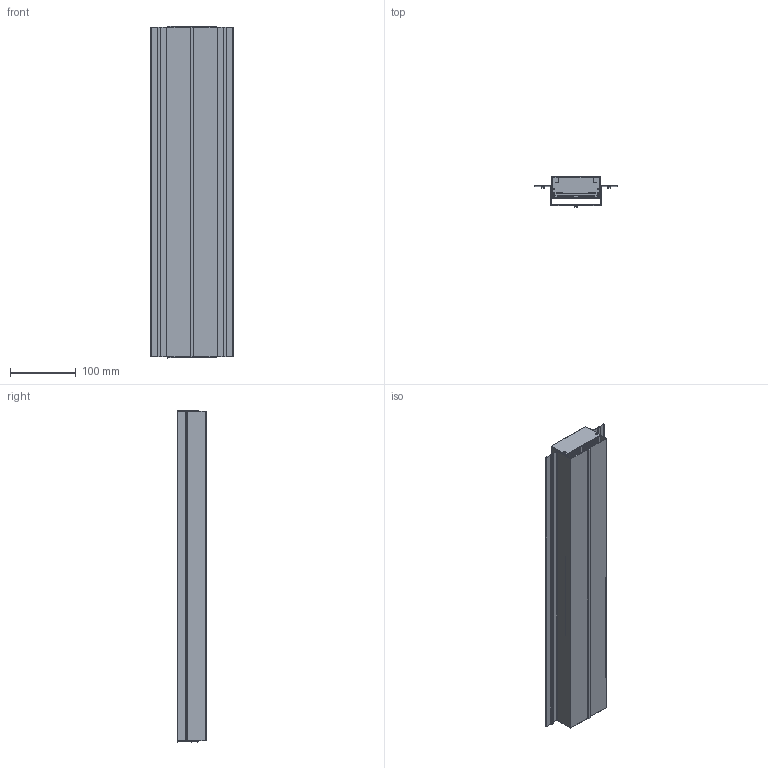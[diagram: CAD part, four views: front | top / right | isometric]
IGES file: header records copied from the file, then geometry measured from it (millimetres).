
Start section: SolidWorks IGES file using analytic representation for surfaces
Global section: file name: C:\Users\Mattybullough\Desktop\IGS\NS7432.IGS; native system: SolidWorks 2015; preprocessor: SolidWorks 2015; author: MattyBullough; date: 160524.134138; units: millimetre
Bounding box: 125 x 45.5 x 504 mm (x, y, z)
Surface area: 539442.1 mm2 (no closed solid volume)
Topology: 0 solids, 0 shells, 547 faces, 4568 edges, 4568 vertices
Faces by surface type: bspline 314, revolution 233
